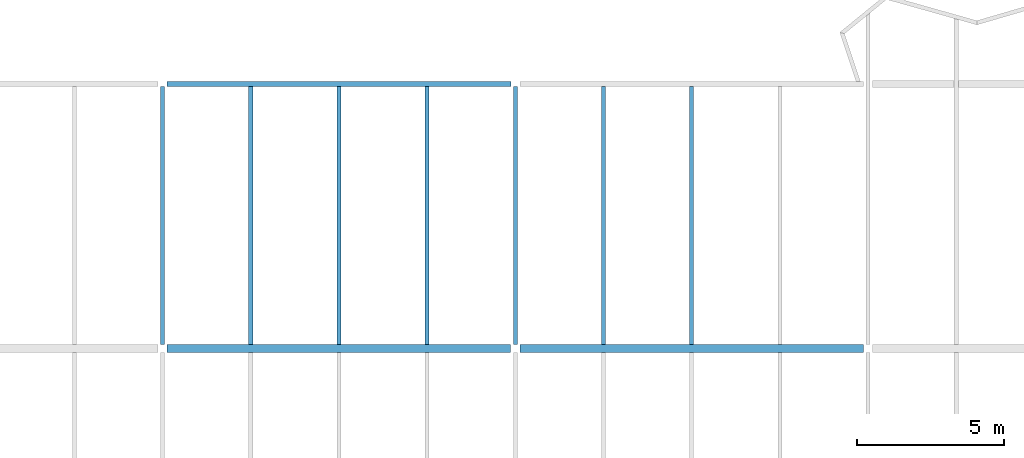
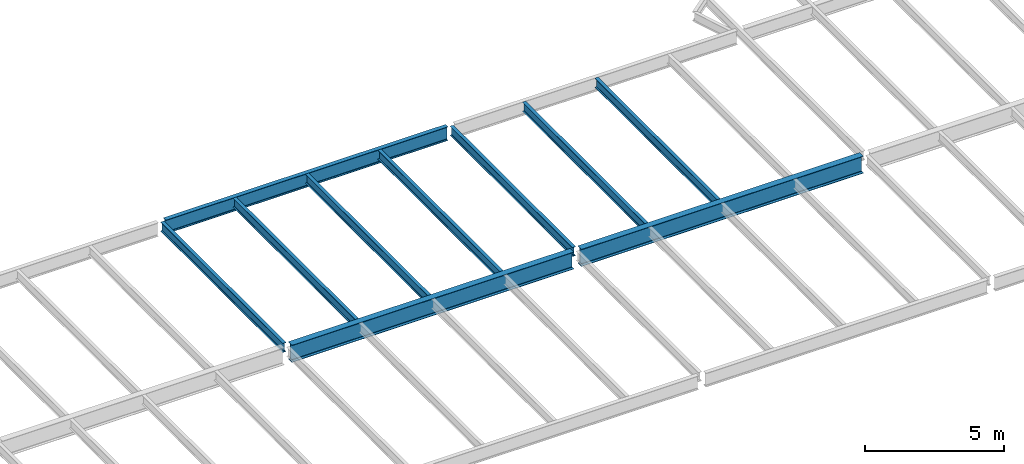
# One storey, part 15 of 21: 10 beams.
"""IFC2X3 building model written with IfcOpenShell, lengths in millimetres."""

from ifc_helpers import new_model, si_unit, origin, place, context, project, spatial, faceted_brep, material, element, save


model = new_model("IFC2X3")

# Units and contexts
context_of_model = context(None, 3, precision=1e-05, world=origin())
ifc_project = project(units=[si_unit("LENGTHUNIT", "METRE", prefix="MILLI")], contexts=[context_of_model])

# Building, storey
building = spatial("IfcBuilding", under=ifc_project, Name="Building", CompositionType="ELEMENT")
storey = spatial("IfcBuildingStorey", under=building, Name="FL6-FRM", CompositionType="ELEMENT")

# Beams
ifc_material_1 = material(Name="A992")
beam_1_placement = place(None, origin())
element("IfcBeam", 1, at=beam_1_placement, inside=storey, material=ifc_material_1, Name="B870", context=context_of_model, shape_type="Brep", body=[
    faceted_brep([(38930.0, 26910.5, 21970.0), (39070.0, 26910.5, 21970.0), (39070.0, 18132.5, 21970.0), (38930.0, 18132.5, 21970.0), (39070.0, 26910.5, 21981.2), (39070.0, 18132.5, 21981.2), (39013.7, 26910.5, 21981.2), (39013.7, 18132.5, 21981.2), (39011.1, 26910.5, 21981.5), (39011.1, 18132.5, 21981.5), (39008.6, 26910.5, 21982.6), (39008.6, 18132.5, 21982.6), (39006.5, 26910.5, 21984.2), (39006.5, 18132.5, 21984.2), (39004.9, 26910.5, 21986.3), (39004.9, 18132.5, 21986.3), (39003.8, 26910.5, 21988.8), (39003.8, 18132.5, 21988.8), (39003.5, 26910.5, 21991.4), (39003.5, 18132.5, 21991.4), (39003.5, 26910.5, 22351.6), (39003.5, 18132.5, 22351.6), (39003.8, 26910.5, 22354.2), (39003.8, 18132.5, 22354.2), (39004.9, 26910.5, 22356.7), (39004.9, 18132.5, 22356.7), (39006.5, 26910.5, 22358.8), (39006.5, 18132.5, 22358.8), (39008.6, 26910.5, 22360.4), (39008.6, 18132.5, 22360.4), (39011.1, 26910.5, 22361.5), (39011.1, 18132.5, 22361.5), (39013.7, 26910.5, 22361.8), (39013.7, 18132.5, 22361.8), (39070.0, 26910.5, 22361.8), (39070.0, 18132.5, 22361.8), (39070.0, 26910.5, 22373.0), (39070.0, 18132.5, 22373.0), (38930.0, 26910.5, 22373.0), (38930.0, 18132.5, 22373.0), (38930.0, 26910.5, 22361.8), (38930.0, 18132.5, 22361.8), (38986.3, 26910.5, 22361.8), (38986.3, 18132.5, 22361.8), (38988.9, 26910.5, 22361.5), (38988.9, 18132.5, 22361.5), (38991.4, 26910.5, 22360.4), (38991.4, 18132.5, 22360.4), (38993.5, 26910.5, 22358.8), (38993.5, 18132.5, 22358.8), (38995.1, 26910.5, 22356.7), (38995.1, 18132.5, 22356.7), (38996.2, 26910.5, 22354.2), (38996.2, 18132.5, 22354.2), (38996.5, 26910.5, 22351.6), (38996.5, 18132.5, 22351.6), (38996.5, 26910.5, 21991.4), (38996.5, 18132.5, 21991.4), (38996.2, 26910.5, 21988.8), (38996.2, 18132.5, 21988.8), (38995.1, 26910.5, 21986.3), (38995.1, 18132.5, 21986.3), (38993.5, 26910.5, 21984.2), (38993.5, 18132.5, 21984.2), (38991.4, 26910.5, 21982.6), (38991.4, 18132.5, 21982.6), (38988.9, 26910.5, 21981.5), (38988.9, 18132.5, 21981.5), (38986.3, 26910.5, 21981.2), (38986.3, 18132.5, 21981.2), (38930.0, 26910.5, 21981.2), (38930.0, 18132.5, 21981.2)], [[[0, 1, 2, 3]], [[1, 4, 5, 2]], [[4, 6, 7, 5]], [[6, 8, 9, 7]], [[8, 10, 11, 9]], [[10, 12, 13, 11]], [[12, 14, 15, 13]], [[14, 16, 17, 15]], [[16, 18, 19, 17]], [[18, 20, 21, 19]], [[20, 22, 23, 21]], [[22, 24, 25, 23]], [[24, 26, 27, 25]], [[26, 28, 29, 27]], [[28, 30, 31, 29]], [[30, 32, 33, 31]], [[32, 34, 35, 33]], [[34, 36, 37, 35]], [[36, 38, 39, 37]], [[38, 40, 41, 39]], [[40, 42, 43, 41]], [[42, 44, 45, 43]], [[44, 46, 47, 45]], [[46, 48, 49, 47]], [[48, 50, 51, 49]], [[50, 52, 53, 51]], [[52, 54, 55, 53]], [[54, 56, 57, 55]], [[56, 58, 59, 57]], [[58, 60, 61, 59]], [[60, 62, 63, 61]], [[62, 64, 65, 63]], [[64, 66, 67, 65]], [[66, 68, 69, 67]], [[68, 70, 71, 69]], [[70, 0, 3, 71]], [[0, 70, 68, 66, 64, 62, 60, 58, 56, 54, 52, 50, 48, 46, 44, 42, 40, 38, 36, 34, 32, 30, 28, 26, 24, 22, 20, 18, 16, 14, 12, 10, 8, 6, 4, 1]], [[3, 2, 5, 7, 9, 11, 13, 15, 17, 19, 21, 23, 25, 27, 29, 31, 33, 35, 37, 39, 41, 43, 45, 47, 49, 51, 53, 55, 57, 59, 61, 63, 65, 67, 69, 71]]]),
])
ifc_material_2 = material(Name="A992")
beam_2_placement = place(None, origin())
element("IfcBeam", 2, at=beam_2_placement, inside=storey, material=ifc_material_2, Name="B871", context=context_of_model, shape_type="Brep", body=[
    faceted_brep([(41930.0, 26910.5, 21970.0), (42070.0, 26910.5, 21970.0), (42070.0, 18132.5, 21970.0), (41930.0, 18132.5, 21970.0), (42070.0, 26910.5, 21981.2), (42070.0, 18132.5, 21981.2), (42013.7, 26910.5, 21981.2), (42013.7, 18132.5, 21981.2), (42011.1, 26910.5, 21981.5), (42011.1, 18132.5, 21981.5), (42008.6, 26910.5, 21982.6), (42008.6, 18132.5, 21982.6), (42006.5, 26910.5, 21984.2), (42006.5, 18132.5, 21984.2), (42004.9, 26910.5, 21986.3), (42004.9, 18132.5, 21986.3), (42003.8, 26910.5, 21988.8), (42003.8, 18132.5, 21988.8), (42003.5, 26910.5, 21991.4), (42003.5, 18132.5, 21991.4), (42003.5, 26910.5, 22351.6), (42003.5, 18132.5, 22351.6), (42003.8, 26910.5, 22354.2), (42003.8, 18132.5, 22354.2), (42004.9, 26910.5, 22356.7), (42004.9, 18132.5, 22356.7), (42006.5, 26910.5, 22358.8), (42006.5, 18132.5, 22358.8), (42008.6, 26910.5, 22360.4), (42008.6, 18132.5, 22360.4), (42011.1, 26910.5, 22361.5), (42011.1, 18132.5, 22361.5), (42013.7, 26910.5, 22361.8), (42013.7, 18132.5, 22361.8), (42070.0, 26910.5, 22361.8), (42070.0, 18132.5, 22361.8), (42070.0, 26910.5, 22373.0), (42070.0, 18132.5, 22373.0), (41930.0, 26910.5, 22373.0), (41930.0, 18132.5, 22373.0), (41930.0, 26910.5, 22361.8), (41930.0, 18132.5, 22361.8), (41986.3, 26910.5, 22361.8), (41986.3, 18132.5, 22361.8), (41988.9, 26910.5, 22361.5), (41988.9, 18132.5, 22361.5), (41991.4, 26910.5, 22360.4), (41991.4, 18132.5, 22360.4), (41993.5, 26910.5, 22358.8), (41993.5, 18132.5, 22358.8), (41995.1, 26910.5, 22356.7), (41995.1, 18132.5, 22356.7), (41996.2, 26910.5, 22354.2), (41996.2, 18132.5, 22354.2), (41996.5, 26910.5, 22351.6), (41996.5, 18132.5, 22351.6), (41996.5, 26910.5, 21991.4), (41996.5, 18132.5, 21991.4), (41996.2, 26910.5, 21988.8), (41996.2, 18132.5, 21988.8), (41995.1, 26910.5, 21986.3), (41995.1, 18132.5, 21986.3), (41993.5, 26910.5, 21984.2), (41993.5, 18132.5, 21984.2), (41991.4, 26910.5, 21982.6), (41991.4, 18132.5, 21982.6), (41988.9, 26910.5, 21981.5), (41988.9, 18132.5, 21981.5), (41986.3, 26910.5, 21981.2), (41986.3, 18132.5, 21981.2), (41930.0, 26910.5, 21981.2), (41930.0, 18132.5, 21981.2)], [[[0, 1, 2, 3]], [[1, 4, 5, 2]], [[4, 6, 7, 5]], [[6, 8, 9, 7]], [[8, 10, 11, 9]], [[10, 12, 13, 11]], [[12, 14, 15, 13]], [[14, 16, 17, 15]], [[16, 18, 19, 17]], [[18, 20, 21, 19]], [[20, 22, 23, 21]], [[22, 24, 25, 23]], [[24, 26, 27, 25]], [[26, 28, 29, 27]], [[28, 30, 31, 29]], [[30, 32, 33, 31]], [[32, 34, 35, 33]], [[34, 36, 37, 35]], [[36, 38, 39, 37]], [[38, 40, 41, 39]], [[40, 42, 43, 41]], [[42, 44, 45, 43]], [[44, 46, 47, 45]], [[46, 48, 49, 47]], [[48, 50, 51, 49]], [[50, 52, 53, 51]], [[52, 54, 55, 53]], [[54, 56, 57, 55]], [[56, 58, 59, 57]], [[58, 60, 61, 59]], [[60, 62, 63, 61]], [[62, 64, 65, 63]], [[64, 66, 67, 65]], [[66, 68, 69, 67]], [[68, 70, 71, 69]], [[70, 0, 3, 71]], [[0, 70, 68, 66, 64, 62, 60, 58, 56, 54, 52, 50, 48, 46, 44, 42, 40, 38, 36, 34, 32, 30, 28, 26, 24, 22, 20, 18, 16, 14, 12, 10, 8, 6, 4, 1]], [[3, 2, 5, 7, 9, 11, 13, 15, 17, 19, 21, 23, 25, 27, 29, 31, 33, 35, 37, 39, 41, 43, 45, 47, 49, 51, 53, 55, 57, 59, 61, 63, 65, 67, 69, 71]]]),
])
ifc_material_3 = material(Name="A992")
beam_3_placement = place(None, origin())
element("IfcBeam", 3, at=beam_3_placement, inside=storey, material=ifc_material_3, Name="B872", context=context_of_model, shape_type="Brep", body=[
    faceted_brep([(44930.0, 26910.5, 21970.0), (45070.0, 26910.5, 21970.0), (45070.0, 18132.5, 21970.0), (44930.0, 18132.5, 21970.0), (45070.0, 26910.5, 21981.2), (45070.0, 18132.5, 21981.2), (45013.7, 26910.5, 21981.2), (45013.7, 18132.5, 21981.2), (45011.1, 26910.5, 21981.5), (45011.1, 18132.5, 21981.5), (45008.6, 26910.5, 21982.6), (45008.6, 18132.5, 21982.6), (45006.5, 26910.5, 21984.2), (45006.5, 18132.5, 21984.2), (45004.9, 26910.5, 21986.3), (45004.9, 18132.5, 21986.3), (45003.8, 26910.5, 21988.8), (45003.8, 18132.5, 21988.8), (45003.5, 26910.5, 21991.4), (45003.5, 18132.5, 21991.4), (45003.5, 26910.5, 22351.6), (45003.5, 18132.5, 22351.6), (45003.8, 26910.5, 22354.2), (45003.8, 18132.5, 22354.2), (45004.9, 26910.5, 22356.7), (45004.9, 18132.5, 22356.7), (45006.5, 26910.5, 22358.8), (45006.5, 18132.5, 22358.8), (45008.6, 26910.5, 22360.4), (45008.6, 18132.5, 22360.4), (45011.1, 26910.5, 22361.5), (45011.1, 18132.5, 22361.5), (45013.7, 26910.5, 22361.8), (45013.7, 18132.5, 22361.8), (45070.0, 26910.5, 22361.8), (45070.0, 18132.5, 22361.8), (45070.0, 26910.5, 22373.0), (45070.0, 18132.5, 22373.0), (44930.0, 26910.5, 22373.0), (44930.0, 18132.5, 22373.0), (44930.0, 26910.5, 22361.8), (44930.0, 18132.5, 22361.8), (44986.3, 26910.5, 22361.8), (44986.3, 18132.5, 22361.8), (44988.9, 26910.5, 22361.5), (44988.9, 18132.5, 22361.5), (44991.4, 26910.5, 22360.4), (44991.4, 18132.5, 22360.4), (44993.5, 26910.5, 22358.8), (44993.5, 18132.5, 22358.8), (44995.1, 26910.5, 22356.7), (44995.1, 18132.5, 22356.7), (44996.2, 26910.5, 22354.2), (44996.2, 18132.5, 22354.2), (44996.5, 26910.5, 22351.6), (44996.5, 18132.5, 22351.6), (44996.5, 26910.5, 21991.4), (44996.5, 18132.5, 21991.4), (44996.2, 26910.5, 21988.8), (44996.2, 18132.5, 21988.8), (44995.1, 26910.5, 21986.3), (44995.1, 18132.5, 21986.3), (44993.5, 26910.5, 21984.2), (44993.5, 18132.5, 21984.2), (44991.4, 26910.5, 21982.6), (44991.4, 18132.5, 21982.6), (44988.9, 26910.5, 21981.5), (44988.9, 18132.5, 21981.5), (44986.3, 26910.5, 21981.2), (44986.3, 18132.5, 21981.2), (44930.0, 26910.5, 21981.2), (44930.0, 18132.5, 21981.2)], [[[0, 1, 2, 3]], [[1, 4, 5, 2]], [[4, 6, 7, 5]], [[6, 8, 9, 7]], [[8, 10, 11, 9]], [[10, 12, 13, 11]], [[12, 14, 15, 13]], [[14, 16, 17, 15]], [[16, 18, 19, 17]], [[18, 20, 21, 19]], [[20, 22, 23, 21]], [[22, 24, 25, 23]], [[24, 26, 27, 25]], [[26, 28, 29, 27]], [[28, 30, 31, 29]], [[30, 32, 33, 31]], [[32, 34, 35, 33]], [[34, 36, 37, 35]], [[36, 38, 39, 37]], [[38, 40, 41, 39]], [[40, 42, 43, 41]], [[42, 44, 45, 43]], [[44, 46, 47, 45]], [[46, 48, 49, 47]], [[48, 50, 51, 49]], [[50, 52, 53, 51]], [[52, 54, 55, 53]], [[54, 56, 57, 55]], [[56, 58, 59, 57]], [[58, 60, 61, 59]], [[60, 62, 63, 61]], [[62, 64, 65, 63]], [[64, 66, 67, 65]], [[66, 68, 69, 67]], [[68, 70, 71, 69]], [[70, 0, 3, 71]], [[0, 70, 68, 66, 64, 62, 60, 58, 56, 54, 52, 50, 48, 46, 44, 42, 40, 38, 36, 34, 32, 30, 28, 26, 24, 22, 20, 18, 16, 14, 12, 10, 8, 6, 4, 1]], [[3, 2, 5, 7, 9, 11, 13, 15, 17, 19, 21, 23, 25, 27, 29, 31, 33, 35, 37, 39, 41, 43, 45, 47, 49, 51, 53, 55, 57, 59, 61, 63, 65, 67, 69, 71]]]),
])
ifc_material_4 = material(Name="A992")
beam_4_placement = place(None, origin())
element("IfcBeam", 4, at=beam_4_placement, inside=storey, material=ifc_material_4, Name="B873", context=context_of_model, shape_type="Brep", body=[
    faceted_brep([(36070.0, 18132.5, 21970.0), (35930.0, 18132.5, 21970.0), (35930.0, 26910.5, 21970.0), (36070.0, 26910.5, 21970.0), (35930.0, 18132.5, 21981.2), (35930.0, 26910.5, 21981.2), (35986.3, 18132.5, 21981.2), (35986.3, 26910.5, 21981.2), (35988.9, 18132.5, 21981.5), (35988.9, 26910.5, 21981.5), (35991.4, 18132.5, 21982.6), (35991.4, 26910.5, 21982.6), (35993.5, 18132.5, 21984.2), (35993.5, 26910.5, 21984.2), (35995.1, 18132.5, 21986.3), (35995.1, 26910.5, 21986.3), (35996.2, 18132.5, 21988.8), (35996.2, 26910.5, 21988.8), (35996.5, 18132.5, 21991.4), (35996.5, 26910.5, 21991.4), (35996.5, 18132.5, 22351.6), (35996.5, 26910.5, 22351.6), (35996.2, 18132.5, 22354.2), (35996.2, 26910.5, 22354.2), (35995.1, 18132.5, 22356.7), (35995.1, 26910.5, 22356.7), (35993.5, 18132.5, 22358.8), (35993.5, 26910.5, 22358.8), (35991.4, 18132.5, 22360.4), (35991.4, 26910.5, 22360.4), (35988.9, 18132.5, 22361.5), (35988.9, 26910.5, 22361.5), (35986.3, 18132.5, 22361.8), (35986.3, 26910.5, 22361.8), (35930.0, 18132.5, 22361.8), (35930.0, 26910.5, 22361.8), (35930.0, 18132.5, 22373.0), (35930.0, 26910.5, 22373.0), (36070.0, 18132.5, 22373.0), (36070.0, 26910.5, 22373.0), (36070.0, 18132.5, 22361.8), (36070.0, 26910.5, 22361.8), (36013.7, 18132.5, 22361.8), (36013.7, 26910.5, 22361.8), (36011.1, 18132.5, 22361.5), (36011.1, 26910.5, 22361.5), (36008.6, 18132.5, 22360.4), (36008.6, 26910.5, 22360.4), (36006.5, 18132.5, 22358.8), (36006.5, 26910.5, 22358.8), (36004.9, 18132.5, 22356.7), (36004.9, 26910.5, 22356.7), (36003.8, 18132.5, 22354.2), (36003.8, 26910.5, 22354.2), (36003.5, 18132.5, 22351.6), (36003.5, 26910.5, 22351.6), (36003.5, 18132.5, 21991.4), (36003.5, 26910.5, 21991.4), (36003.8, 18132.5, 21988.8), (36003.8, 26910.5, 21988.8), (36004.9, 18132.5, 21986.3), (36004.9, 26910.5, 21986.3), (36006.5, 18132.5, 21984.2), (36006.5, 26910.5, 21984.2), (36008.6, 18132.5, 21982.6), (36008.6, 26910.5, 21982.6), (36011.1, 18132.5, 21981.5), (36011.1, 26910.5, 21981.5), (36013.7, 18132.5, 21981.2), (36013.7, 26910.5, 21981.2), (36070.0, 18132.5, 21981.2), (36070.0, 26910.5, 21981.2)], [[[0, 1, 2, 3]], [[1, 4, 5, 2]], [[4, 6, 7, 5]], [[6, 8, 9, 7]], [[8, 10, 11, 9]], [[10, 12, 13, 11]], [[12, 14, 15, 13]], [[14, 16, 17, 15]], [[16, 18, 19, 17]], [[18, 20, 21, 19]], [[20, 22, 23, 21]], [[22, 24, 25, 23]], [[24, 26, 27, 25]], [[26, 28, 29, 27]], [[28, 30, 31, 29]], [[30, 32, 33, 31]], [[32, 34, 35, 33]], [[34, 36, 37, 35]], [[36, 38, 39, 37]], [[38, 40, 41, 39]], [[40, 42, 43, 41]], [[42, 44, 45, 43]], [[44, 46, 47, 45]], [[46, 48, 49, 47]], [[48, 50, 51, 49]], [[50, 52, 53, 51]], [[52, 54, 55, 53]], [[54, 56, 57, 55]], [[56, 58, 59, 57]], [[58, 60, 61, 59]], [[60, 62, 63, 61]], [[62, 64, 65, 63]], [[64, 66, 67, 65]], [[66, 68, 69, 67]], [[68, 70, 71, 69]], [[70, 0, 3, 71]], [[0, 70, 68, 66, 64, 62, 60, 58, 56, 54, 52, 50, 48, 46, 44, 42, 40, 38, 36, 34, 32, 30, 28, 26, 24, 22, 20, 18, 16, 14, 12, 10, 8, 6, 4, 1]], [[3, 2, 5, 7, 9, 11, 13, 15, 17, 19, 21, 23, 25, 27, 29, 31, 33, 35, 37, 39, 41, 43, 45, 47, 49, 51, 53, 55, 57, 59, 61, 63, 65, 67, 69, 71]]]),
])
ifc_material_5 = material(Name="A992")
beam_5_placement = place(None, origin())
element("IfcBeam", 5, at=beam_5_placement, inside=storey, material=ifc_material_5, Name="Column606", context=context_of_model, shape_type="Brep", body=[
    faceted_brep([(36157.0, 17867.5, 21620.0), (36157.0, 18132.5, 21620.0), (47843.0, 18132.5, 21620.0), (47843.0, 17867.5, 21620.0), (36157.0, 18132.5, 21637.0), (47843.0, 18132.5, 21637.0), (36157.0, 18023.1, 21637.0), (47843.0, 18023.1, 21637.0), (36157.0, 18018.8, 21637.6), (47843.0, 18018.8, 21637.6), (36157.0, 18014.8, 21639.2), (47843.0, 18014.8, 21639.2), (36157.0, 18011.4, 21641.8), (47843.0, 18011.4, 21641.8), (36157.0, 18008.8, 21645.2), (47843.0, 18008.8, 21645.2), (36157.0, 18007.2, 21649.2), (47843.0, 18007.2, 21649.2), (36157.0, 18006.6, 21653.5), (47843.0, 18006.6, 21653.5), (36157.0, 18006.6, 22339.5), (47843.0, 18006.6, 22339.5), (36157.0, 18007.2, 22343.8), (47843.0, 18007.2, 22343.8), (36157.0, 18008.8, 22347.8), (47843.0, 18008.8, 22347.8), (36157.0, 18011.4, 22351.2), (47843.0, 18011.4, 22351.2), (36157.0, 18014.8, 22353.8), (47843.0, 18014.8, 22353.8), (36157.0, 18018.8, 22355.4), (47843.0, 18018.8, 22355.4), (36157.0, 18023.1, 22356.0), (47843.0, 18023.1, 22356.0), (36157.0, 18132.5, 22356.0), (47843.0, 18132.5, 22356.0), (36157.0, 18132.5, 22373.0), (47843.0, 18132.5, 22373.0), (36157.0, 17867.5, 22373.0), (47843.0, 17867.5, 22373.0), (36157.0, 17867.5, 22356.0), (47843.0, 17867.5, 22356.0), (36157.0, 17976.9, 22356.0), (47843.0, 17976.9, 22356.0), (36157.0, 17981.2, 22355.4), (47843.0, 17981.2, 22355.4), (36157.0, 17985.2, 22353.8), (47843.0, 17985.2, 22353.8), (36157.0, 17988.6, 22351.2), (47843.0, 17988.6, 22351.2), (36157.0, 17991.2, 22347.8), (47843.0, 17991.2, 22347.7), (36157.0, 17992.8, 22343.8), (47843.0, 17992.8, 22343.8), (36157.0, 17993.4, 22339.5), (47843.0, 17993.4, 22339.5), (36157.0, 17993.4, 21653.5), (47843.0, 17993.4, 21653.5), (36157.0, 17992.8, 21649.2), (47843.0, 17992.8, 21649.2), (36157.0, 17991.2, 21645.3), (47843.0, 17991.2, 21645.3), (36157.0, 17988.6, 21641.8), (47843.0, 17988.6, 21641.8), (36157.0, 17985.2, 21639.2), (47843.0, 17985.2, 21639.2), (36157.0, 17981.2, 21637.6), (47843.0, 17981.2, 21637.6), (36157.0, 17976.9, 21637.0), (47843.0, 17976.9, 21637.0), (36157.0, 17867.5, 21637.0), (47843.0, 17867.5, 21637.0)], [[[0, 1, 2, 3]], [[1, 4, 5, 2]], [[4, 6, 7, 5]], [[6, 8, 9, 7]], [[8, 10, 11, 9]], [[10, 12, 13, 11]], [[12, 14, 15, 13]], [[14, 16, 17, 15]], [[16, 18, 19, 17]], [[18, 20, 21, 19]], [[20, 22, 23, 21]], [[22, 24, 25, 23]], [[24, 26, 27, 25]], [[26, 28, 29, 27]], [[28, 30, 31, 29]], [[30, 32, 33, 31]], [[32, 34, 35, 33]], [[34, 36, 37, 35]], [[36, 38, 39, 37]], [[38, 40, 41, 39]], [[40, 42, 43, 41]], [[42, 44, 45, 43]], [[44, 46, 47, 45]], [[46, 48, 49, 47]], [[48, 50, 51, 49]], [[50, 52, 53, 51]], [[52, 54, 55, 53]], [[54, 56, 57, 55]], [[56, 58, 59, 57]], [[58, 60, 61, 59]], [[60, 62, 63, 61]], [[62, 64, 65, 63]], [[64, 66, 67, 65]], [[66, 68, 69, 67]], [[68, 70, 71, 69]], [[70, 0, 3, 71]], [[0, 70, 68, 66, 64, 62, 60, 58, 56, 54, 52, 50, 48, 46, 44, 42, 40, 38, 36, 34, 32, 30, 28, 26, 24, 22, 20, 18, 16, 14, 12, 10, 8, 6, 4, 1]], [[3, 2, 5, 7, 9, 11, 13, 15, 17, 19, 21, 23, 25, 27, 29, 31, 33, 35, 37, 39, 41, 43, 45, 47, 49, 51, 53, 55, 57, 59, 61, 63, 65, 67, 69, 71]]]),
])
ifc_material_6 = material(Name="A992")
beam_6_placement = place(None, origin())
element("IfcBeam", 6, at=beam_6_placement, inside=storey, material=ifc_material_6, Name="Column607", context=context_of_model, shape_type="Brep", body=[
    faceted_brep([(36153.0, 26910.5, 21770.0), (36153.0, 27089.5, 21770.0), (47847.0, 27089.5, 21770.0), (47847.0, 26910.5, 21770.0), (36153.0, 27089.5, 21785.0), (47847.0, 27089.5, 21785.0), (36153.0, 27020.6, 21785.0), (47847.0, 27020.6, 21785.0), (36153.0, 27016.7, 21785.5), (47847.0, 27016.7, 21785.5), (36153.0, 27013.0, 21787.0), (47847.0, 27013.0, 21787.0), (36153.0, 27009.9, 21789.5), (47847.0, 27009.9, 21789.5), (36153.0, 27007.5, 21792.6), (47847.0, 27007.5, 21792.6), (36153.0, 27006.0, 21796.3), (47847.0, 27006.0, 21796.3), (36153.0, 27005.4, 21800.2), (47847.0, 27005.4, 21800.2), (36153.0, 27005.4, 22342.8), (47847.0, 27005.4, 22342.8), (36153.0, 27006.0, 22346.7), (47847.0, 27006.0, 22346.7), (36153.0, 27007.5, 22350.4), (47847.0, 27007.5, 22350.4), (36153.0, 27009.9, 22353.5), (47847.0, 27009.9, 22353.5), (36153.0, 27013.0, 22356.0), (47847.0, 27013.0, 22356.0), (36153.0, 27016.7, 22357.5), (47847.0, 27016.7, 22357.5), (36153.0, 27020.6, 22358.0), (47847.0, 27020.6, 22358.0), (36153.0, 27089.5, 22358.0), (47847.0, 27089.5, 22358.0), (36153.0, 27089.5, 22373.0), (47847.0, 27089.5, 22373.0), (36153.0, 26910.5, 22373.0), (47847.0, 26910.5, 22373.0), (36153.0, 26910.5, 22358.0), (47847.0, 26910.5, 22358.0), (36153.0, 26979.4, 22358.0), (47847.0, 26979.4, 22358.0), (36153.0, 26983.3, 22357.5), (47847.0, 26983.3, 22357.5), (36153.0, 26987.0, 22356.0), (47847.0, 26987.0, 22356.0), (36153.0, 26990.1, 22353.5), (47847.0, 26990.1, 22353.5), (36153.0, 26992.5, 22350.4), (47847.0, 26992.5, 22350.4), (36153.0, 26994.0, 22346.7), (47847.0, 26994.0, 22346.7), (36153.0, 26994.6, 22342.8), (47847.0, 26994.6, 22342.8), (36153.0, 26994.6, 21800.2), (47847.0, 26994.6, 21800.2), (36153.0, 26994.0, 21796.3), (47847.0, 26994.0, 21796.3), (36153.0, 26992.5, 21792.6), (47847.0, 26992.5, 21792.6), (36153.0, 26990.1, 21789.5), (47847.0, 26990.1, 21789.5), (36153.0, 26987.0, 21787.0), (47847.0, 26987.0, 21787.0), (36153.0, 26983.3, 21785.5), (47847.0, 26983.3, 21785.5), (36153.0, 26979.4, 21785.0), (47847.0, 26979.4, 21785.0), (36153.0, 26910.5, 21785.0), (47847.0, 26910.5, 21785.0)], [[[0, 1, 2, 3]], [[1, 4, 5, 2]], [[4, 6, 7, 5]], [[6, 8, 9, 7]], [[8, 10, 11, 9]], [[10, 12, 13, 11]], [[12, 14, 15, 13]], [[14, 16, 17, 15]], [[16, 18, 19, 17]], [[18, 20, 21, 19]], [[20, 22, 23, 21]], [[22, 24, 25, 23]], [[24, 26, 27, 25]], [[26, 28, 29, 27]], [[28, 30, 31, 29]], [[30, 32, 33, 31]], [[32, 34, 35, 33]], [[34, 36, 37, 35]], [[36, 38, 39, 37]], [[38, 40, 41, 39]], [[40, 42, 43, 41]], [[42, 44, 45, 43]], [[44, 46, 47, 45]], [[46, 48, 49, 47]], [[48, 50, 51, 49]], [[50, 52, 53, 51]], [[52, 54, 55, 53]], [[54, 56, 57, 55]], [[56, 58, 59, 57]], [[58, 60, 61, 59]], [[60, 62, 63, 61]], [[62, 64, 65, 63]], [[64, 66, 67, 65]], [[66, 68, 69, 67]], [[68, 70, 71, 69]], [[70, 0, 3, 71]], [[0, 70, 68, 66, 64, 62, 60, 58, 56, 54, 52, 50, 48, 46, 44, 42, 40, 38, 36, 34, 32, 30, 28, 26, 24, 22, 20, 18, 16, 14, 12, 10, 8, 6, 4, 1]], [[3, 2, 5, 7, 9, 11, 13, 15, 17, 19, 21, 23, 25, 27, 29, 31, 33, 35, 37, 39, 41, 43, 45, 47, 49, 51, 53, 55, 57, 59, 61, 63, 65, 67, 69, 71]]]),
])
ifc_material_7 = material(Name="A992")
beam_7_placement = place(None, origin())
element("IfcBeam", 7, at=beam_7_placement, inside=storey, material=ifc_material_7, Name="B878", context=context_of_model, shape_type="Brep", body=[
    faceted_brep([(50930.0, 26910.5, 21970.0), (51070.0, 26910.5, 21970.0), (51070.0, 18132.5, 21970.0), (50930.0, 18132.5, 21970.0), (51070.0, 26910.5, 21981.2), (51070.0, 18132.5, 21981.2), (51013.7, 26910.5, 21981.2), (51013.7, 18132.5, 21981.2), (51011.1, 26910.5, 21981.5), (51011.1, 18132.5, 21981.5), (51008.6, 26910.5, 21982.6), (51008.6, 18132.5, 21982.6), (51006.5, 26910.5, 21984.2), (51006.5, 18132.5, 21984.2), (51004.9, 26910.5, 21986.3), (51004.9, 18132.5, 21986.3), (51003.8, 26910.5, 21988.8), (51003.8, 18132.5, 21988.8), (51003.5, 26910.5, 21991.4), (51003.5, 18132.5, 21991.4), (51003.5, 26910.5, 22351.6), (51003.5, 18132.5, 22351.6), (51003.8, 26910.5, 22354.2), (51003.8, 18132.5, 22354.2), (51004.9, 26910.5, 22356.7), (51004.9, 18132.5, 22356.7), (51006.5, 26910.5, 22358.8), (51006.5, 18132.5, 22358.8), (51008.6, 26910.5, 22360.4), (51008.6, 18132.5, 22360.4), (51011.1, 26910.5, 22361.5), (51011.1, 18132.5, 22361.5), (51013.7, 26910.5, 22361.8), (51013.7, 18132.5, 22361.8), (51070.0, 26910.5, 22361.8), (51070.0, 18132.5, 22361.8), (51070.0, 26910.5, 22373.0), (51070.0, 18132.5, 22373.0), (50930.0, 26910.5, 22373.0), (50930.0, 18132.5, 22373.0), (50930.0, 26910.5, 22361.8), (50930.0, 18132.5, 22361.8), (50986.3, 26910.5, 22361.8), (50986.3, 18132.5, 22361.8), (50988.9, 26910.5, 22361.5), (50988.9, 18132.5, 22361.5), (50991.4, 26910.5, 22360.4), (50991.4, 18132.5, 22360.4), (50993.5, 26910.5, 22358.8), (50993.5, 18132.5, 22358.8), (50995.1, 26910.5, 22356.7), (50995.1, 18132.5, 22356.7), (50996.2, 26910.5, 22354.2), (50996.2, 18132.5, 22354.2), (50996.5, 26910.5, 22351.6), (50996.5, 18132.5, 22351.6), (50996.5, 26910.5, 21991.4), (50996.5, 18132.5, 21991.4), (50996.2, 26910.5, 21988.8), (50996.2, 18132.5, 21988.8), (50995.1, 26910.5, 21986.3), (50995.1, 18132.5, 21986.3), (50993.5, 26910.5, 21984.2), (50993.5, 18132.5, 21984.2), (50991.4, 26910.5, 21982.6), (50991.4, 18132.5, 21982.6), (50988.9, 26910.5, 21981.5), (50988.9, 18132.5, 21981.5), (50986.3, 26910.5, 21981.2), (50986.3, 18132.5, 21981.2), (50930.0, 26910.5, 21981.2), (50930.0, 18132.5, 21981.2)], [[[0, 1, 2, 3]], [[1, 4, 5, 2]], [[4, 6, 7, 5]], [[6, 8, 9, 7]], [[8, 10, 11, 9]], [[10, 12, 13, 11]], [[12, 14, 15, 13]], [[14, 16, 17, 15]], [[16, 18, 19, 17]], [[18, 20, 21, 19]], [[20, 22, 23, 21]], [[22, 24, 25, 23]], [[24, 26, 27, 25]], [[26, 28, 29, 27]], [[28, 30, 31, 29]], [[30, 32, 33, 31]], [[32, 34, 35, 33]], [[34, 36, 37, 35]], [[36, 38, 39, 37]], [[38, 40, 41, 39]], [[40, 42, 43, 41]], [[42, 44, 45, 43]], [[44, 46, 47, 45]], [[46, 48, 49, 47]], [[48, 50, 51, 49]], [[50, 52, 53, 51]], [[52, 54, 55, 53]], [[54, 56, 57, 55]], [[56, 58, 59, 57]], [[58, 60, 61, 59]], [[60, 62, 63, 61]], [[62, 64, 65, 63]], [[64, 66, 67, 65]], [[66, 68, 69, 67]], [[68, 70, 71, 69]], [[70, 0, 3, 71]], [[0, 70, 68, 66, 64, 62, 60, 58, 56, 54, 52, 50, 48, 46, 44, 42, 40, 38, 36, 34, 32, 30, 28, 26, 24, 22, 20, 18, 16, 14, 12, 10, 8, 6, 4, 1]], [[3, 2, 5, 7, 9, 11, 13, 15, 17, 19, 21, 23, 25, 27, 29, 31, 33, 35, 37, 39, 41, 43, 45, 47, 49, 51, 53, 55, 57, 59, 61, 63, 65, 67, 69, 71]]]),
])
ifc_material_8 = material(Name="A992")
beam_8_placement = place(None, origin())
element("IfcBeam", 8, at=beam_8_placement, inside=storey, material=ifc_material_8, Name="B879", context=context_of_model, shape_type="Brep", body=[
    faceted_brep([(53930.0, 26910.5, 21970.0), (54070.0, 26910.5, 21970.0), (54070.0, 18132.5, 21970.0), (53930.0, 18132.5, 21970.0), (54070.0, 26910.5, 21981.2), (54070.0, 18132.5, 21981.2), (54013.7, 26910.5, 21981.2), (54013.7, 18132.5, 21981.2), (54011.1, 26910.5, 21981.5), (54011.1, 18132.5, 21981.5), (54008.6, 26910.5, 21982.6), (54008.6, 18132.5, 21982.6), (54006.5, 26910.5, 21984.2), (54006.5, 18132.5, 21984.2), (54004.9, 26910.5, 21986.3), (54004.9, 18132.5, 21986.3), (54003.8, 26910.5, 21988.8), (54003.8, 18132.5, 21988.8), (54003.5, 26910.5, 21991.4), (54003.5, 18132.5, 21991.4), (54003.5, 26910.5, 22351.6), (54003.5, 18132.5, 22351.6), (54003.8, 26910.5, 22354.2), (54003.8, 18132.5, 22354.2), (54004.9, 26910.5, 22356.7), (54004.9, 18132.5, 22356.7), (54006.5, 26910.5, 22358.8), (54006.5, 18132.5, 22358.8), (54008.6, 26910.5, 22360.4), (54008.6, 18132.5, 22360.4), (54011.1, 26910.5, 22361.5), (54011.1, 18132.5, 22361.5), (54013.7, 26910.5, 22361.8), (54013.7, 18132.5, 22361.8), (54070.0, 26910.5, 22361.8), (54070.0, 18132.5, 22361.8), (54070.0, 26910.5, 22373.0), (54070.0, 18132.5, 22373.0), (53930.0, 26910.5, 22373.0), (53930.0, 18132.5, 22373.0), (53930.0, 26910.5, 22361.8), (53930.0, 18132.5, 22361.8), (53986.3, 26910.5, 22361.8), (53986.3, 18132.5, 22361.8), (53988.9, 26910.5, 22361.5), (53988.9, 18132.5, 22361.5), (53991.4, 26910.5, 22360.4), (53991.4, 18132.5, 22360.4), (53993.5, 26910.5, 22358.8), (53993.5, 18132.5, 22358.8), (53995.1, 26910.5, 22356.7), (53995.1, 18132.5, 22356.7), (53996.2, 26910.5, 22354.2), (53996.2, 18132.5, 22354.2), (53996.5, 26910.5, 22351.6), (53996.5, 18132.5, 22351.6), (53996.5, 26910.5, 21991.4), (53996.5, 18132.5, 21991.4), (53996.2, 26910.5, 21988.8), (53996.2, 18132.5, 21988.8), (53995.1, 26910.5, 21986.3), (53995.1, 18132.5, 21986.3), (53993.5, 26910.5, 21984.2), (53993.5, 18132.5, 21984.2), (53991.4, 26910.5, 21982.6), (53991.4, 18132.5, 21982.6), (53988.9, 26910.5, 21981.5), (53988.9, 18132.5, 21981.5), (53986.3, 26910.5, 21981.2), (53986.3, 18132.5, 21981.2), (53930.0, 26910.5, 21981.2), (53930.0, 18132.5, 21981.2)], [[[0, 1, 2, 3]], [[1, 4, 5, 2]], [[4, 6, 7, 5]], [[6, 8, 9, 7]], [[8, 10, 11, 9]], [[10, 12, 13, 11]], [[12, 14, 15, 13]], [[14, 16, 17, 15]], [[16, 18, 19, 17]], [[18, 20, 21, 19]], [[20, 22, 23, 21]], [[22, 24, 25, 23]], [[24, 26, 27, 25]], [[26, 28, 29, 27]], [[28, 30, 31, 29]], [[30, 32, 33, 31]], [[32, 34, 35, 33]], [[34, 36, 37, 35]], [[36, 38, 39, 37]], [[38, 40, 41, 39]], [[40, 42, 43, 41]], [[42, 44, 45, 43]], [[44, 46, 47, 45]], [[46, 48, 49, 47]], [[48, 50, 51, 49]], [[50, 52, 53, 51]], [[52, 54, 55, 53]], [[54, 56, 57, 55]], [[56, 58, 59, 57]], [[58, 60, 61, 59]], [[60, 62, 63, 61]], [[62, 64, 65, 63]], [[64, 66, 67, 65]], [[66, 68, 69, 67]], [[68, 70, 71, 69]], [[70, 0, 3, 71]], [[0, 70, 68, 66, 64, 62, 60, 58, 56, 54, 52, 50, 48, 46, 44, 42, 40, 38, 36, 34, 32, 30, 28, 26, 24, 22, 20, 18, 16, 14, 12, 10, 8, 6, 4, 1]], [[3, 2, 5, 7, 9, 11, 13, 15, 17, 19, 21, 23, 25, 27, 29, 31, 33, 35, 37, 39, 41, 43, 45, 47, 49, 51, 53, 55, 57, 59, 61, 63, 65, 67, 69, 71]]]),
])
ifc_material_9 = material(Name="A992")
beam_9_placement = place(None, origin())
element("IfcBeam", 9, at=beam_9_placement, inside=storey, material=ifc_material_9, Name="B881", context=context_of_model, shape_type="Brep", body=[
    faceted_brep([(48070.0, 18132.5, 21970.0), (47930.0, 18132.5, 21970.0), (47930.0, 26910.5, 21970.0), (48070.0, 26910.5, 21970.0), (47930.0, 18132.5, 21981.2), (47930.0, 26910.5, 21981.2), (47986.3, 18132.5, 21981.2), (47986.3, 26910.5, 21981.2), (47988.9, 18132.5, 21981.5), (47988.9, 26910.5, 21981.5), (47991.4, 18132.5, 21982.6), (47991.4, 26910.5, 21982.6), (47993.5, 18132.5, 21984.2), (47993.5, 26910.5, 21984.2), (47995.1, 18132.5, 21986.3), (47995.1, 26910.5, 21986.3), (47996.2, 18132.5, 21988.8), (47996.2, 26910.5, 21988.8), (47996.5, 18132.5, 21991.4), (47996.5, 26910.5, 21991.4), (47996.5, 18132.5, 22351.6), (47996.5, 26910.5, 22351.6), (47996.2, 18132.5, 22354.2), (47996.2, 26910.5, 22354.2), (47995.1, 18132.5, 22356.7), (47995.1, 26910.5, 22356.7), (47993.5, 18132.5, 22358.8), (47993.5, 26910.5, 22358.8), (47991.4, 18132.5, 22360.4), (47991.4, 26910.5, 22360.4), (47988.9, 18132.5, 22361.5), (47988.9, 26910.5, 22361.5), (47986.3, 18132.5, 22361.8), (47986.3, 26910.5, 22361.8), (47930.0, 18132.5, 22361.8), (47930.0, 26910.5, 22361.8), (47930.0, 18132.5, 22373.0), (47930.0, 26910.5, 22373.0), (48070.0, 18132.5, 22373.0), (48070.0, 26910.5, 22373.0), (48070.0, 18132.5, 22361.8), (48070.0, 26910.5, 22361.8), (48013.7, 18132.5, 22361.8), (48013.7, 26910.5, 22361.8), (48011.1, 18132.5, 22361.5), (48011.1, 26910.5, 22361.5), (48008.6, 18132.5, 22360.4), (48008.6, 26910.5, 22360.4), (48006.5, 18132.5, 22358.8), (48006.5, 26910.5, 22358.8), (48004.9, 18132.5, 22356.7), (48004.9, 26910.5, 22356.7), (48003.8, 18132.5, 22354.2), (48003.8, 26910.5, 22354.2), (48003.5, 18132.5, 22351.6), (48003.5, 26910.5, 22351.6), (48003.5, 18132.5, 21991.4), (48003.5, 26910.5, 21991.4), (48003.8, 18132.5, 21988.8), (48003.8, 26910.5, 21988.8), (48004.9, 18132.5, 21986.3), (48004.9, 26910.5, 21986.3), (48006.5, 18132.5, 21984.2), (48006.5, 26910.5, 21984.2), (48008.6, 18132.5, 21982.6), (48008.6, 26910.5, 21982.6), (48011.1, 18132.5, 21981.5), (48011.1, 26910.5, 21981.5), (48013.7, 18132.5, 21981.2), (48013.7, 26910.5, 21981.2), (48070.0, 18132.5, 21981.2), (48070.0, 26910.5, 21981.2)], [[[0, 1, 2, 3]], [[1, 4, 5, 2]], [[4, 6, 7, 5]], [[6, 8, 9, 7]], [[8, 10, 11, 9]], [[10, 12, 13, 11]], [[12, 14, 15, 13]], [[14, 16, 17, 15]], [[16, 18, 19, 17]], [[18, 20, 21, 19]], [[20, 22, 23, 21]], [[22, 24, 25, 23]], [[24, 26, 27, 25]], [[26, 28, 29, 27]], [[28, 30, 31, 29]], [[30, 32, 33, 31]], [[32, 34, 35, 33]], [[34, 36, 37, 35]], [[36, 38, 39, 37]], [[38, 40, 41, 39]], [[40, 42, 43, 41]], [[42, 44, 45, 43]], [[44, 46, 47, 45]], [[46, 48, 49, 47]], [[48, 50, 51, 49]], [[50, 52, 53, 51]], [[52, 54, 55, 53]], [[54, 56, 57, 55]], [[56, 58, 59, 57]], [[58, 60, 61, 59]], [[60, 62, 63, 61]], [[62, 64, 65, 63]], [[64, 66, 67, 65]], [[66, 68, 69, 67]], [[68, 70, 71, 69]], [[70, 0, 3, 71]], [[0, 70, 68, 66, 64, 62, 60, 58, 56, 54, 52, 50, 48, 46, 44, 42, 40, 38, 36, 34, 32, 30, 28, 26, 24, 22, 20, 18, 16, 14, 12, 10, 8, 6, 4, 1]], [[3, 2, 5, 7, 9, 11, 13, 15, 17, 19, 21, 23, 25, 27, 29, 31, 33, 35, 37, 39, 41, 43, 45, 47, 49, 51, 53, 55, 57, 59, 61, 63, 65, 67, 69, 71]]]),
])
ifc_material_10 = material(Name="A992")
beam_10_placement = place(None, origin())
element("IfcBeam", 10, at=beam_10_placement, inside=storey, material=ifc_material_10, Name="Column609", context=context_of_model, shape_type="Brep", body=[
    faceted_brep([(48157.0, 17867.5, 21620.0), (48157.0, 18132.5, 21620.0), (59843.0, 18132.5, 21620.0), (59843.0, 17867.5, 21620.0), (48157.0, 18132.5, 21637.0), (59843.0, 18132.5, 21637.0), (48157.0, 18023.1, 21637.0), (59843.0, 18023.1, 21637.0), (48157.0, 18018.8, 21637.6), (59843.0, 18018.8, 21637.6), (48157.0, 18014.8, 21639.2), (59843.0, 18014.8, 21639.2), (48157.0, 18011.4, 21641.8), (59843.0, 18011.4, 21641.8), (48157.0, 18008.8, 21645.2), (59843.0, 18008.8, 21645.2), (48157.0, 18007.2, 21649.2), (59843.0, 18007.2, 21649.2), (48157.0, 18006.6, 21653.5), (59843.0, 18006.6, 21653.5), (48157.0, 18006.6, 22339.5), (59843.0, 18006.6, 22339.5), (48157.0, 18007.2, 22343.8), (59843.0, 18007.2, 22343.8), (48157.0, 18008.8, 22347.8), (59843.0, 18008.8, 22347.7), (48157.0, 18011.4, 22351.2), (59843.0, 18011.4, 22351.2), (48157.0, 18014.8, 22353.8), (59843.0, 18014.8, 22353.8), (48157.0, 18018.8, 22355.4), (59843.0, 18018.8, 22355.4), (48157.0, 18023.1, 22356.0), (59843.0, 18023.1, 22356.0), (48157.0, 18132.5, 22356.0), (59843.0, 18132.5, 22356.0), (48157.0, 18132.5, 22373.0), (59843.0, 18132.5, 22373.0), (48157.0, 17867.5, 22373.0), (59843.0, 17867.5, 22373.0), (48157.0, 17867.5, 22356.0), (59843.0, 17867.5, 22356.0), (48157.0, 17976.9, 22356.0), (59843.0, 17976.9, 22356.0), (48157.0, 17981.2, 22355.4), (59843.0, 17981.2, 22355.4), (48157.0, 17985.2, 22353.8), (59843.0, 17985.2, 22353.8), (48157.0, 17988.6, 22351.2), (59843.0, 17988.6, 22351.2), (48157.0, 17991.2, 22347.8), (59843.0, 17991.2, 22347.7), (48157.0, 17992.8, 22343.8), (59843.0, 17992.8, 22343.8), (48157.0, 17993.4, 22339.5), (59843.0, 17993.4, 22339.5), (48157.0, 17993.4, 21653.5), (59843.0, 17993.4, 21653.5), (48157.0, 17992.8, 21649.2), (59843.0, 17992.8, 21649.2), (48157.0, 17991.2, 21645.3), (59843.0, 17991.2, 21645.2), (48157.0, 17988.6, 21641.8), (59843.0, 17988.6, 21641.8), (48157.0, 17985.2, 21639.2), (59843.0, 17985.2, 21639.2), (48157.0, 17981.2, 21637.6), (59843.0, 17981.2, 21637.6), (48157.0, 17976.9, 21637.0), (59843.0, 17976.9, 21637.0), (48157.0, 17867.5, 21637.0), (59843.0, 17867.5, 21637.0)], [[[0, 1, 2, 3]], [[1, 4, 5, 2]], [[4, 6, 7, 5]], [[6, 8, 9, 7]], [[8, 10, 11, 9]], [[10, 12, 13, 11]], [[12, 14, 15, 13]], [[14, 16, 17, 15]], [[16, 18, 19, 17]], [[18, 20, 21, 19]], [[20, 22, 23, 21]], [[22, 24, 25, 23]], [[24, 26, 27, 25]], [[26, 28, 29, 27]], [[28, 30, 31, 29]], [[30, 32, 33, 31]], [[32, 34, 35, 33]], [[34, 36, 37, 35]], [[36, 38, 39, 37]], [[38, 40, 41, 39]], [[40, 42, 43, 41]], [[42, 44, 45, 43]], [[44, 46, 47, 45]], [[46, 48, 49, 47]], [[48, 50, 51, 49]], [[50, 52, 53, 51]], [[52, 54, 55, 53]], [[54, 56, 57, 55]], [[56, 58, 59, 57]], [[58, 60, 61, 59]], [[60, 62, 63, 61]], [[62, 64, 65, 63]], [[64, 66, 67, 65]], [[66, 68, 69, 67]], [[68, 70, 71, 69]], [[70, 0, 3, 71]], [[0, 70, 68, 66, 64, 62, 60, 58, 56, 54, 52, 50, 48, 46, 44, 42, 40, 38, 36, 34, 32, 30, 28, 26, 24, 22, 20, 18, 16, 14, 12, 10, 8, 6, 4, 1]], [[3, 2, 5, 7, 9, 11, 13, 15, 17, 19, 21, 23, 25, 27, 29, 31, 33, 35, 37, 39, 41, 43, 45, 47, 49, 51, 53, 55, 57, 59, 61, 63, 65, 67, 69, 71]]]),
])

save(model, "model.ifc")
